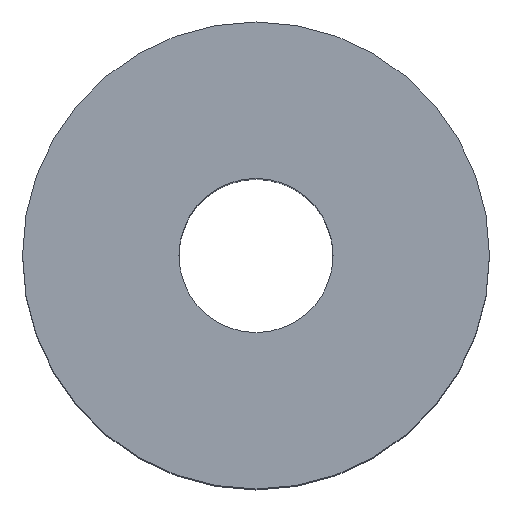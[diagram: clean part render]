
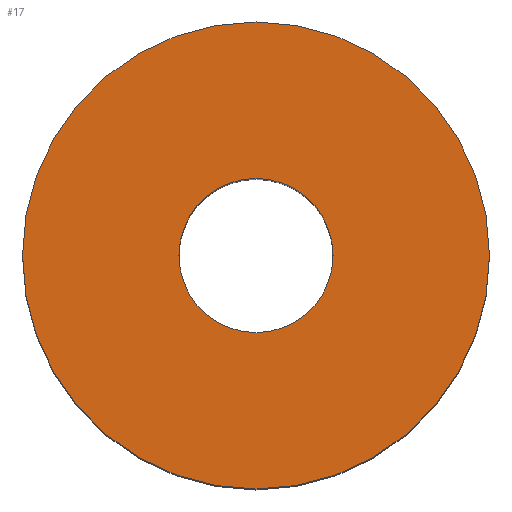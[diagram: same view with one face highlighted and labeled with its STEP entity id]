
A CAD part, top view. The second image highlights one B-rep face of the part: STEP entity #17.
In plain terms, the highlighted planar face has unit normal (0, 0, 1).
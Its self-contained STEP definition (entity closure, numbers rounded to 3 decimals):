
#17 = ADVANCED_FACE('',(#18,#29),#40,.T.);
#18 = FACE_BOUND('',#19,.F.);
#19 = EDGE_LOOP('',(#20));
#20 = ORIENTED_EDGE('',*,*,#21,.T.);
#21 = EDGE_CURVE('',#22,#22,#24,.T.);
#22 = VERTEX_POINT('',#23);
#23 = CARTESIAN_POINT('',(3.3,0.,11.973));
#24 = CIRCLE('',#25,3.3);
#25 = AXIS2_PLACEMENT_3D('',#26,#27,#28);
#26 = CARTESIAN_POINT('',(0.,0.,11.973));
#27 = DIRECTION('',(0.,0.,1.));
#28 = DIRECTION('',(1.,0.,0.));
#29 = FACE_BOUND('',#30,.F.);
#30 = EDGE_LOOP('',(#31));
#31 = ORIENTED_EDGE('',*,*,#32,.F.);
#32 = EDGE_CURVE('',#33,#33,#35,.T.);
#33 = VERTEX_POINT('',#34);
#34 = CARTESIAN_POINT('',(10.,0.,11.973));
#35 = CIRCLE('',#36,10.);
#36 = AXIS2_PLACEMENT_3D('',#37,#38,#39);
#37 = CARTESIAN_POINT('',(0.,0.,11.973));
#38 = DIRECTION('',(0.,0.,1.));
#39 = DIRECTION('',(1.,0.,0.));
#40 = PLANE('',#41);
#41 = AXIS2_PLACEMENT_3D('',#42,#43,#44);
#42 = CARTESIAN_POINT('',(0.,0.,11.973));
#43 = DIRECTION('',(0.,0.,1.));
#44 = DIRECTION('',(1.,0.,0.));
